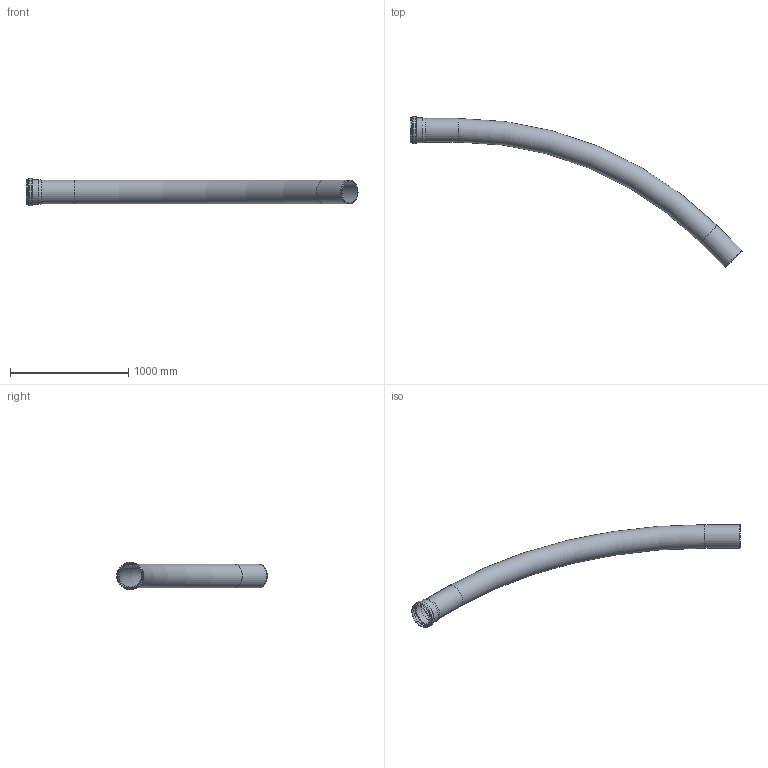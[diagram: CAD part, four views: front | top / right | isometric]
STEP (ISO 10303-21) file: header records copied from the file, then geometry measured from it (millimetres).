
FILE_DESCRIPTION(/* description */ (''),/* implementation_level */ '2;1');
FILE_NAME(/* name */ '734190z.stp',/* time_stamp */ '2026-05-08T11:20:12+02:00',/* author */ ('corinna'),/* organization */ (''),/* preprocessor_version */ 'ST-DEVELOPER v20',/* originating_system */ 'Autodesk Inventor 2024',/* authorisation */ '');
FILE_SCHEMA (('AUTOMOTIVE_DESIGN { 1 0 10303 214 3 1 1 }'));
Length unit declared in the file: millimetre
Products named in the file (1): 734190z
Bounding box: 2809.65 x 1275.66 x 231.3 mm (x, y, z)
Volume: 11574158.3 mm3; surface area: 3769378.8 mm2
Topology: 1 solids, 1 shells, 41 faces, 97 edges, 62 vertices
Faces by surface type: torus 16, cylinder 11, cone 8, plane 6
Full cylindrical faces by diameter (mm): 187.6 x2, 200 x2, 200.8 x1, 201 x2, 210.4 x1, 212 x1, 221.9 x1, 231.3 x1
Entity records: 1272 total; most frequent: DIRECTION 259, CARTESIAN_POINT 201, ORIENTED_EDGE 194, AXIS2_PLACEMENT_3D 120, EDGE_CURVE 97, CIRCLE 78, VERTEX_POINT 62, EDGE_LOOP 47
